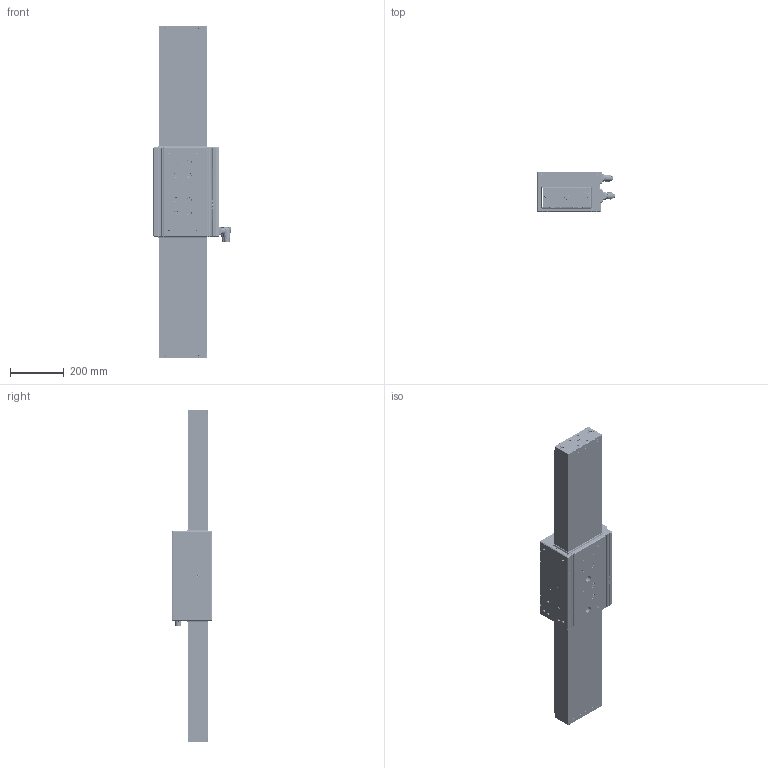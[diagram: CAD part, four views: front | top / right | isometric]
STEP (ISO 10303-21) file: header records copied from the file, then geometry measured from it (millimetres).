
FILE_DESCRIPTION((''),'2;1');
FILE_NAME('LDAT-150-DUMMY_ASM','2012-05-18T',('als'),('Rockwell Automation'),'PRO/ENGINEER BY PARAMETRIC TECHNOLOGY CORPORATION, 2007390','PRO/ENGINEER BY PARAMETRIC TECHNOLOGY CORPORATION, 2007390','');
FILE_SCHEMA(('CONFIG_CONTROL_DESIGN'));
Length unit declared in the file: millimetre
Products named in the file (28): B627631-150-A_AF2; D627756-150-200_ASM; D627769-150; D627768-150; D627739-150; B627834; SLIDER_DUMMY_150-1200; B627686-150; A805843-1; A805843-2; A805843-4; A805843-3_ASM; A805843-5; A805843-6; A805843_ASM; B627690-150; 627795; 627822; 627815; DIN7991-10_9-8X22-ZP; DIN7991-10_9-5X30-ZP; DIN912-14X30; DIN912-10X16; DIN912-3X8; ISO7380-3X8; 627849; DIN912-2_5X12; LDAT-150-DUMMY_ASM
Assembly tree (92 placements, depth 4):
  LDAT-150-DUMMY_ASM
    D627756-150-200_ASM
      B627631-150-A_AF2
    D627769-150
    D627768-150
    D627739-150  x2
    B627834
    SLIDER_DUMMY_150-1200
    B627686-150  x2
    A805843_ASM  x2
      A805843-1
      A805843-2
      A805843-3_ASM
        A805843-4
      A805843-5
      A805843-6
    B627690-150  x2
    627795  x4
    627822
    627815  x3
    DIN7991-10_9-8X22-ZP  x8
    DIN7991-10_9-5X30-ZP  x12
    DIN912-14X30  x4
    DIN912-10X16  x2
    DIN912-3X8  x14
    ISO7380-3X8  x6
    627849  x6
    DIN912-2_5X12  x8
Bounding box: 289.1 x 150 x 1238.1 mm (x, y, z)
Volume: 20340830.2 mm3; surface area: 1581405.4 mm2
Topology: 97 solids, 121 shells, 6794 faces, 18603 edges, 12117 vertices
Faces by surface type: cylinder 2712, plane 1869, bspline 874, cone 711, torus 510, sphere 110, extrusion 6, revolution 2
Entity records: 150514 total; most frequent: CARTESIAN_POINT 73380, ORIENTED_EDGE 17177, DIRECTION 14576, EDGE_CURVE 8608, AXIS2_PLACEMENT_3D 5807, VERTEX_POINT 5664, EDGE_LOOP 3396, FACE_OUTER_BOUND 3093
